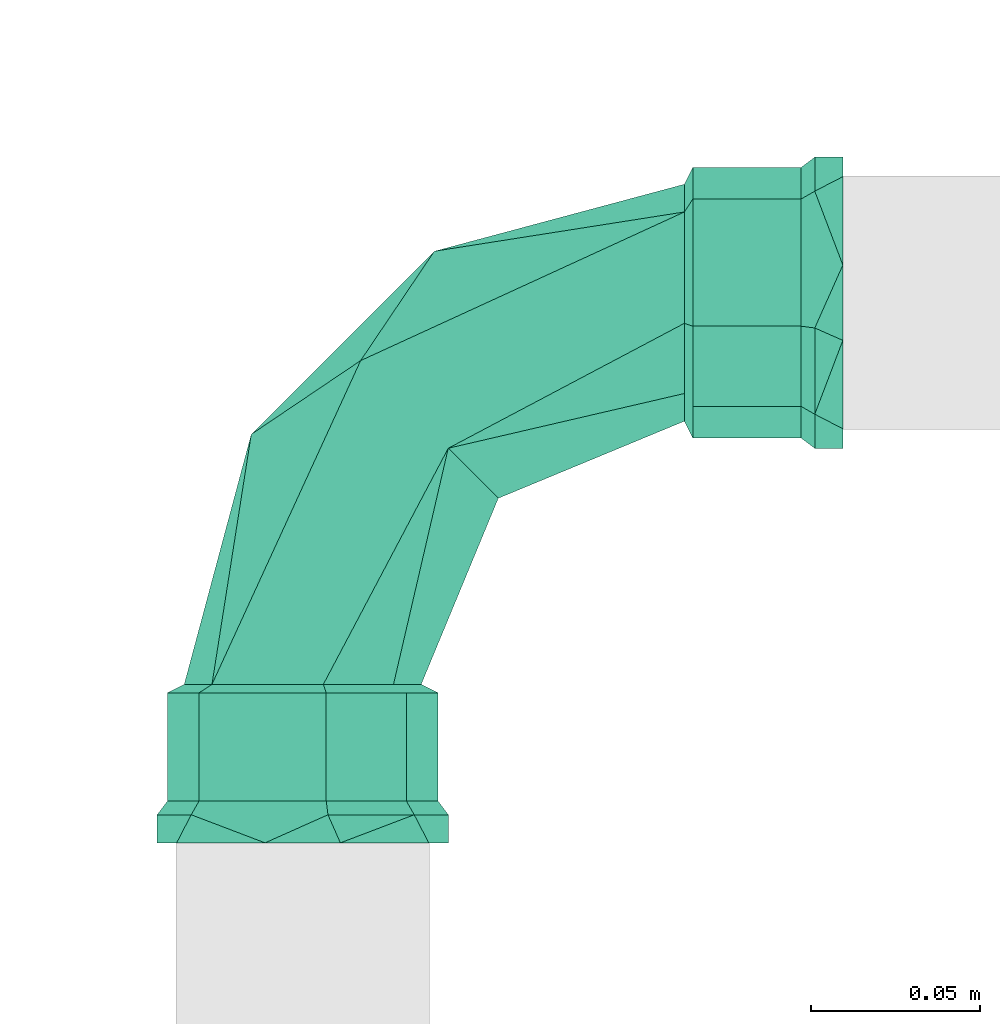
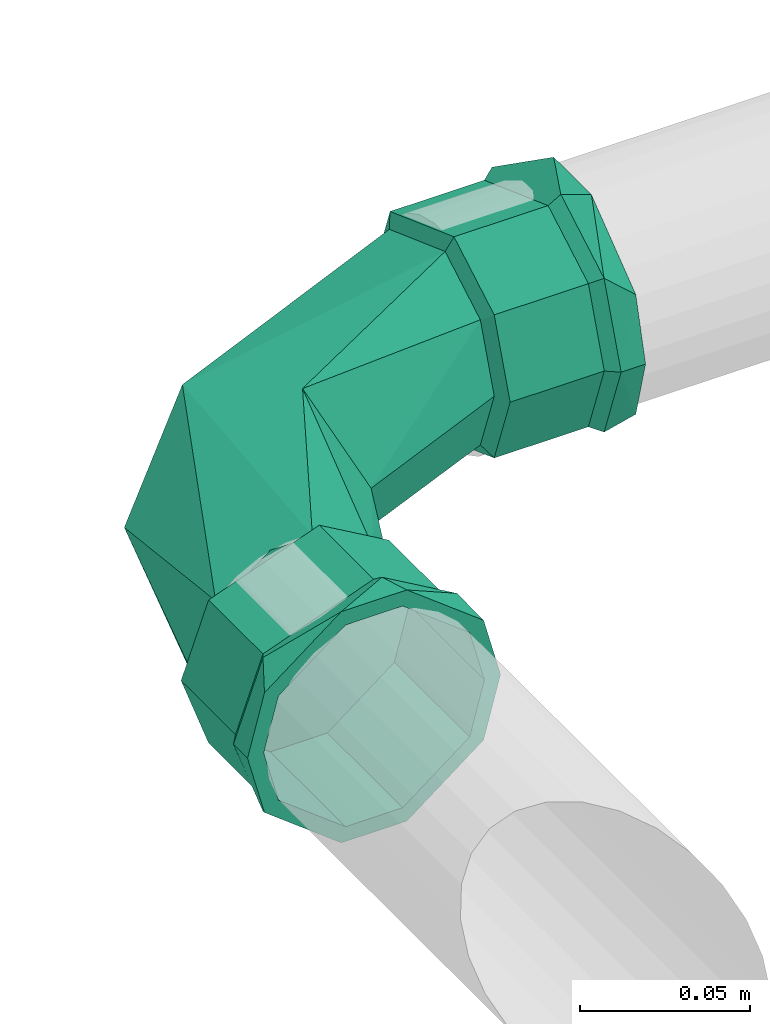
# One storey, part 90 of 166: 1 flow fitting.
"""IFC2X3 building model written with IfcOpenShell, lengths in metres."""

from ifc_helpers import new_model, entity, si_unit, converted_unit, direction, frame, origin, place, context, subcontext, project, spatial, faceted_brep, source, transform, mapped, material, type_object, type_shapes, element, save


model = new_model("IFC2X3")

# Units and contexts
model_context = context("Model", 3, precision=1e-05, world=origin(), true_north=direction((6.123233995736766e-17, 1.0)))
body_context = subcontext(model_context, "Body", "Model", "MODEL_VIEW")
ifc_project = project(units=[si_unit("LENGTHUNIT", "METRE"), converted_unit("PLANEANGLEUNIT", "DEGREE", entity("IfcPlaneAngleMeasure", 0.017453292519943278), si_unit("PLANEANGLEUNIT", "RADIAN"), dimensions=[0, 0, 0, 0, 0, 0, 0]), si_unit("AREAUNIT", "SQUARE_METRE")], contexts=[model_context])

# Site, building, storey
site_placement = place(None, origin())
site = spatial("IfcSite", under=ifc_project, at=site_placement, Name="Default", CompositionType="ELEMENT")
building_placement = place(site_placement, origin())
building = spatial("IfcBuilding", under=site, at=building_placement, Name="CASA DE ACOLHIDA PARA IDOSOS", CompositionType="ELEMENT")
storey_placement = place(building_placement, frame((0.0, 0.0, -1.7499999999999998)))
storey = spatial("IfcBuildingStorey", under=building, at=storey_placement, Name="IMPLANTAÇÃO DRENAGEM", CompositionType="ELEMENT", Elevation=-1.7499999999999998)

# Flow fitting
ifc_material = material(Name="PVC Marrom")
pipe_fitting_type = type_object("IfcPipeFittingType", Name="AF_Soldavel_Curva 45_90:Standard", PredefinedType="NOTDEFINED", material=ifc_material)
shared_shape = source(origin(), body_context, "Body", "Brep", [
    faceted_brep([(-0.1595599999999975, -0.01112921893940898, -0.041534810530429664), (-0.1595599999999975, -0.009705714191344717, -0.036222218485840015), (-0.1595599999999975, 0.00970571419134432, -0.03622221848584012), (-0.1595599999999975, -0.03723909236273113, -0.02149999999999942), (-0.1595599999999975, 0.011129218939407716, -0.041534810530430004), (-0.1595599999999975, -0.03247595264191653, -0.01874999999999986), (-0.1595599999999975, -0.037500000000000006, 0.0), (-0.1595599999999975, -0.043000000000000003, 0.0), (-0.1595599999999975, -0.032475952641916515, 0.018749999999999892), (-0.1595599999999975, -0.03723909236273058, 0.021499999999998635), (-0.1595599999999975, -0.009705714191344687, 0.03622221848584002), (-0.1595599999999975, -0.011129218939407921, 0.04153481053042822), (-0.1595599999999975, 0.00970571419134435, 0.03622221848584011), (-0.1595599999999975, 0.011129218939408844, 0.041534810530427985), (-0.1595599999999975, 0.03247595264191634, 0.018750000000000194), (-0.1595599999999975, 0.03723909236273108, 0.021499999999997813), (-0.1595599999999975, 0.043000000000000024, 0.0), (-0.1595599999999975, 0.037500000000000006, 0.0), (-0.1595599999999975, 0.03723909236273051, -0.021500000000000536), (-0.1595599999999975, 0.03247595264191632, -0.01875000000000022), (-0.1512599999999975, 0.043000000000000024, 0.0), (-0.1512599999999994, 0.03293946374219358, 0.027640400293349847), (-0.15126000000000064, 0.007465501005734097, 0.04234697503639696), (-0.1512599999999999, -0.032941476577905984, 0.027638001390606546), (-0.1512599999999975, -0.043000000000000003, 0.0), (-0.1512599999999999, -0.012737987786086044, 0.03499248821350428), (-0.15125999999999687, -0.03294147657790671, -0.027638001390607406), (-0.15125999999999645, -0.007468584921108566, -0.04234643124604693), (-0.1512599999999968, 0.03293946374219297, -0.027640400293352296), (-0.15125999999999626, 0.012735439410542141, -0.03499341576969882), (-0.14726000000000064, 0.006943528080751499, 0.03939273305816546), (-0.14725999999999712, -0.04, 0.0), (-0.14725999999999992, -0.0306445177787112, 0.02570823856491), (-0.14726000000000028, -0.01185049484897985, 0.03255048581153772), (-0.14725999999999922, 0.03064099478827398, 0.025712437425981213), (-0.14725999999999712, 0.04000000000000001, 0.0), (-0.14725999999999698, 0.030640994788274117, -0.025712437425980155), (-0.14725999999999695, 0.011846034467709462, -0.03255210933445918), (-0.14725999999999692, -0.030644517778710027, -0.02570823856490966), (-0.1472599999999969, -0.006948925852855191, -0.039391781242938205), (-0.11525999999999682, 0.04000000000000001, 0.0), (-0.1152599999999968, 0.03064034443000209, 0.025713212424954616), (-0.11525999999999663, 0.006941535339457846, 0.039393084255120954), (-0.1152599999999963, -0.030646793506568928, 0.025705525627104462), (-0.11525999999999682, -0.039999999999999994, 0.0), (-0.11525999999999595, -0.03064679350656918, -0.025705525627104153), (-0.11525999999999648, -0.006951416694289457, -0.03939134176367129), (-0.11525999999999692, 0.030640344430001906, -0.02571321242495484), (-0.11275999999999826, 0.02681594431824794, -0.022492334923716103), (-0.11275999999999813, -0.00607384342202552, -0.034468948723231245), (-0.1127599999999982, 0.03500000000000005, 0.0), (-0.1127599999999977, -0.026810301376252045, -0.02249906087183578), (-0.11275999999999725, -0.03500000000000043, 0.0), (-0.11276000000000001, -0.026810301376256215, 0.022499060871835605), (-0.11275999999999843, 0.0060824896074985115, 0.034467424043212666), (-0.11275999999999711, 0.026815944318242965, 0.022492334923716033), (-0.038879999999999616, -0.015203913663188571, 0.0), (-0.017106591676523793, 0.017106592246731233, 0.026797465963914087), (-0.006082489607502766, 0.11275999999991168, 0.0344674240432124), (-0.042993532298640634, 0.04299353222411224, 0.03203626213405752), (-0.05777537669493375, 0.05777537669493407, 0.0), (-0.0268159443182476, 0.1127599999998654, 0.02249233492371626), (0.015203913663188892, 0.03887999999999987, 0.0), (0.035000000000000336, 0.11275999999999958, 0.0), (0.026810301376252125, 0.11275999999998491, 0.022499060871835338), (-0.034999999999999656, 0.1127599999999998, 0.0), (-0.037770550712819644, 0.03777054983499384, -0.03435099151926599), (-0.05270496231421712, 0.052704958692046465, -0.021225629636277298), (-0.0268159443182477, 0.11275999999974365, -0.022492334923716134), (-0.01710659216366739, 0.01710659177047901, -0.02679746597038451), (0.0060738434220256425, 0.11275999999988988, -0.03446894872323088), (0.02681030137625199, 0.11275999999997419, -0.022499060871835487), (0.03064034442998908, 0.115259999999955, -0.025713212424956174), (0.03999999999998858, 0.11525999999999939, 0.0), (0.006941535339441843, 0.11525999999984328, -0.03939308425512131), (-0.04000000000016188, 0.11525999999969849, 0.0), (-0.030646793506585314, 0.11525999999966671, -0.02570552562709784), (-0.03064679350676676, 0.1152600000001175, 0.02570552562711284), (-0.006951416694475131, 0.11526000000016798, 0.039391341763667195), (0.030640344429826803, 0.1152600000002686, 0.025713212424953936), (0.03999999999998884, 0.14725999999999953, 0.0), (0.030640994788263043, 0.14726000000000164, 0.02571243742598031), (0.011846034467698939, 0.14726000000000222, 0.03255210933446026), (-0.006948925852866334, 0.14726000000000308, 0.039391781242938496), (-0.03064451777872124, 0.1472600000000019, 0.02570823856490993), (-0.04000000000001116, 0.14725999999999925, 0.0), (-0.030644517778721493, 0.14726000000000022, -0.025708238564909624), (-0.011850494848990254, 0.14726000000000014, -0.03255048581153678), (0.006943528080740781, 0.14725999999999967, -0.03939273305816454), (0.030640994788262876, 0.14725999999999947, -0.025712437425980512), (-0.03293946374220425, 0.15126000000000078, 0.02764040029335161), (-0.043000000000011, 0.1512599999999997, 0.0), (-0.007465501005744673, 0.15126000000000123, 0.042346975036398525), (0.032941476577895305, 0.15126000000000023, 0.027638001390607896), (0.012737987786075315, 0.15126000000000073, 0.03499248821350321), (0.04299999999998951, 0.1512599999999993, 0.0), (0.03294147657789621, 0.15126000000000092, -0.027638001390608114), (0.0074685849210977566, 0.1512600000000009, -0.042346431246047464), (-0.03293946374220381, 0.15126000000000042, -0.0276404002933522), (-0.012735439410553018, 0.15126000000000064, -0.03499341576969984), (-0.011129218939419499, 0.1595599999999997, -0.04153481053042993), (-0.009705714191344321, 0.1595599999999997, -0.03622221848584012), (0.009705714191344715, 0.1595599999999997, -0.036222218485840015), (-0.03723909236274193, 0.1595599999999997, -0.02149999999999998), (0.011129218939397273, 0.1595599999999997, -0.04153481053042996), (-0.03247595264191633, 0.1595599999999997, -0.01875000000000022), (-0.037500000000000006, 0.1595599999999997, 0.0), (-0.04300000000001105, 0.1595599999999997, 0.0), (-0.03247595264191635, 0.1595599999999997, 0.018750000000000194), (-0.03723909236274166, 0.1595599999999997, 0.02150000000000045), (-0.009705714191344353, 0.1595599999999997, 0.03622221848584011), (-0.011129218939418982, 0.1595599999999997, 0.041534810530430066), (0.009705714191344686, 0.1595599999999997, 0.03622221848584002), (0.01112921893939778, 0.1595599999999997, 0.04153481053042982), (0.03247595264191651, 0.1595599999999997, 0.018749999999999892), (0.03723909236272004, 0.1595599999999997, 0.02149999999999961), (0.04299999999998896, 0.1595599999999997, 0.0), (0.0375, 0.1595599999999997, 0.0), (0.03723909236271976, 0.1595599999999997, -0.0215000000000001), (0.03247595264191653, 0.1595599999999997, -0.01874999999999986), (-0.11525999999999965, 0.009705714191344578, -0.036222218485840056), (-0.11525999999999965, -0.009705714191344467, -0.036222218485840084), (-0.11525999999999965, -0.032475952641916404, -0.018750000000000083), (-0.11525999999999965, -0.037500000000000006, 0.0), (-0.11525999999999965, -0.03247595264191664, 0.018749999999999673), (-0.11525999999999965, -0.009705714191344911, 0.03622221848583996), (-0.11525999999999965, 0.009705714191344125, 0.036222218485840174), (-0.11525999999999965, 0.032475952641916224, 0.01875000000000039), (-0.11525999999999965, 0.037500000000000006, 0.0), (-0.11525999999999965, 0.03247595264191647, -0.018749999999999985), (0.009705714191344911, 0.11526000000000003, 0.03622221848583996), (-0.009705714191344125, 0.11526000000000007, 0.036222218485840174), (-0.009705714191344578, 0.11526000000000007, -0.036222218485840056), (0.009705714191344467, 0.11526000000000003, -0.036222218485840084), (-0.03247595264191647, 0.1152600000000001, -0.018749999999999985), (-0.037500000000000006, 0.11526000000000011, 0.0), (-0.032475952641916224, 0.1152600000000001, 0.01875000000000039), (0.03247595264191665, 0.11526, 0.01874999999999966), (0.037500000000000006, 0.11525999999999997, 0.0), (0.032475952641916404, 0.11526, -0.018750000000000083)], [[[0, 1, 2]], [[1, 0, 3]], [[2, 4, 0]], [[3, 5, 1]], [[3, 6, 5]], [[6, 3, 7]], [[8, 6, 7]], [[8, 7, 9]], [[9, 10, 8]], [[9, 11, 10]], [[10, 11, 12]], [[13, 12, 11]], [[13, 14, 12]], [[14, 13, 15]], [[16, 14, 15]], [[17, 14, 16]], [[18, 17, 16]], [[18, 19, 17]], [[19, 18, 4]], [[4, 2, 19]], [[16, 15, 20]], [[15, 21, 20]], [[21, 15, 13]], [[21, 13, 22]], [[23, 11, 9]], [[24, 9, 7]], [[11, 23, 25, 22]], [[23, 9, 24]], [[11, 22, 13]], [[7, 3, 24]], [[3, 26, 24]], [[26, 3, 0]], [[26, 0, 27]], [[28, 4, 18]], [[20, 18, 16]], [[4, 28, 29, 27]], [[28, 18, 20]], [[4, 27, 0]], [[25, 30, 22]], [[31, 32, 24]], [[24, 32, 23]], [[23, 33, 25]], [[34, 35, 21]], [[23, 32, 33]], [[21, 22, 34]], [[20, 21, 35]], [[30, 25, 33]], [[34, 22, 30]], [[35, 36, 28]], [[28, 20, 35]], [[36, 29, 28]], [[36, 37, 29]], [[37, 27, 29]], [[38, 31, 24]], [[38, 26, 39]], [[26, 38, 24]], [[27, 37, 39]], [[39, 26, 27]], [[35, 34, 40]], [[34, 41, 40]], [[41, 34, 30]], [[41, 30, 42]], [[32, 31, 43]], [[32, 43, 42]], [[43, 31, 44]], [[42, 30, 33, 32]], [[31, 38, 45]], [[31, 45, 44]], [[45, 38, 46]], [[38, 39, 46]], [[47, 39, 37, 36]], [[36, 40, 47]], [[40, 36, 35]], [[39, 47, 46]], [[48, 49, 47]], [[50, 48, 40]], [[40, 48, 47]], [[49, 46, 47]], [[51, 52, 45]], [[45, 46, 51]], [[44, 45, 52]], [[51, 46, 49]], [[52, 53, 43]], [[43, 44, 52]], [[42, 43, 53]], [[53, 54, 42]], [[55, 50, 40]], [[55, 41, 54]], [[41, 55, 40]], [[54, 41, 42]], [[52, 56, 53]], [[53, 57, 54]], [[57, 58, 59]], [[59, 55, 54]], [[50, 55, 60]], [[58, 61, 59]], [[57, 56, 62]], [[57, 59, 54]], [[62, 63, 64]], [[57, 53, 56]], [[64, 58, 57]], [[65, 60, 61]], [[60, 55, 59]], [[60, 59, 61]], [[62, 64, 57]], [[66, 67, 68]], [[69, 66, 70]], [[62, 69, 71]], [[52, 51, 56]], [[56, 51, 69]], [[69, 49, 66]], [[50, 60, 67]], [[65, 68, 67]], [[66, 48, 67]], [[49, 48, 66]], [[70, 66, 68]], [[62, 56, 69]], [[70, 71, 69]], [[71, 63, 62]], [[51, 49, 69]], [[60, 65, 67]], [[50, 67, 48]], [[63, 71, 72, 73]], [[74, 72, 71, 70]], [[68, 65, 75, 76]], [[68, 76, 74, 70]], [[65, 61, 77, 75]], [[78, 77, 61, 58]], [[64, 63, 73, 79]], [[64, 79, 78, 58]], [[80, 81, 73]], [[81, 79, 73]], [[79, 81, 82, 83]], [[79, 83, 78]], [[84, 85, 77]], [[84, 77, 78]], [[77, 85, 75]], [[84, 78, 83]], [[85, 86, 76]], [[85, 76, 75]], [[76, 86, 74]], [[74, 86, 87, 88]], [[88, 89, 72]], [[89, 73, 72]], [[73, 89, 80]], [[88, 72, 74]], [[84, 83, 90]], [[85, 84, 91]], [[91, 84, 90]], [[83, 92, 90]], [[81, 80, 93]], [[81, 93, 94]], [[82, 92, 83]], [[95, 93, 80]], [[92, 82, 94]], [[82, 81, 94]], [[80, 89, 96]], [[96, 95, 80]], [[97, 96, 89]], [[98, 99, 87]], [[89, 88, 97]], [[86, 85, 91]], [[98, 87, 86]], [[98, 86, 91]], [[88, 99, 97]], [[99, 88, 87]], [[100, 101, 102]], [[101, 100, 103]], [[102, 104, 100]], [[103, 105, 101]], [[103, 106, 105]], [[106, 103, 107]], [[108, 106, 107]], [[108, 107, 109]], [[109, 110, 108]], [[109, 111, 110]], [[110, 111, 112]], [[113, 112, 111]], [[113, 114, 112]], [[114, 113, 115]], [[116, 114, 115]], [[117, 114, 116]], [[118, 117, 116]], [[118, 119, 117]], [[119, 118, 104]], [[104, 102, 119]], [[116, 115, 95]], [[115, 93, 95]], [[93, 115, 113]], [[113, 92, 94, 93]], [[90, 111, 109]], [[91, 109, 107]], [[111, 90, 92]], [[90, 109, 91]], [[111, 92, 113]], [[107, 103, 91]], [[103, 98, 91]], [[98, 103, 100]], [[100, 97, 99, 98]], [[96, 104, 118]], [[95, 118, 116]], [[104, 96, 97]], [[96, 118, 95]], [[104, 97, 100]], [[120, 121, 122, 123, 124, 125, 126, 127, 128, 129]], [[124, 123, 6, 8]], [[125, 124, 8, 10]], [[10, 12, 126, 125]], [[130, 131, 110, 112]], [[127, 126, 12, 14]], [[128, 127, 14, 17]], [[129, 128, 17, 19]], [[120, 129, 19, 2]], [[2, 1, 121, 120]], [[132, 133, 102, 101]], [[122, 121, 1, 5]], [[123, 122, 5, 6]], [[132, 134, 135, 136, 131, 130, 137, 138, 139, 133]], [[114, 117, 138, 137]], [[112, 114, 137, 130]], [[108, 110, 131, 136]], [[106, 108, 136, 135]], [[105, 106, 135, 134]], [[101, 105, 134, 132]], [[119, 102, 133, 139]], [[117, 119, 139, 138]]]),
])
type_shapes(pipe_fitting_type, [shared_shape])
flow_fitting_placement = place(storey_placement, frame((-53.73245178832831, 15.389016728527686, -0.2), z_axis=(0.0, 0.0, 1.0), x_axis=(-1.0, 0.0, 0.0)))
element("IfcFlowFitting", 1, at=flow_fitting_placement, inside=storey, type_object=pipe_fitting_type, material=ifc_material, Name="AF_Soldavel_Curva 45_90:Standard", ObjectType="AF_Soldavel_Curva 45_90:Standard", context=body_context, shape_type="MappedRepresentation", body=[
    mapped(shared_shape, transform((0.0, 0.0, 0.0), scale=1.0)),
])

save(model, "model.ifc")
